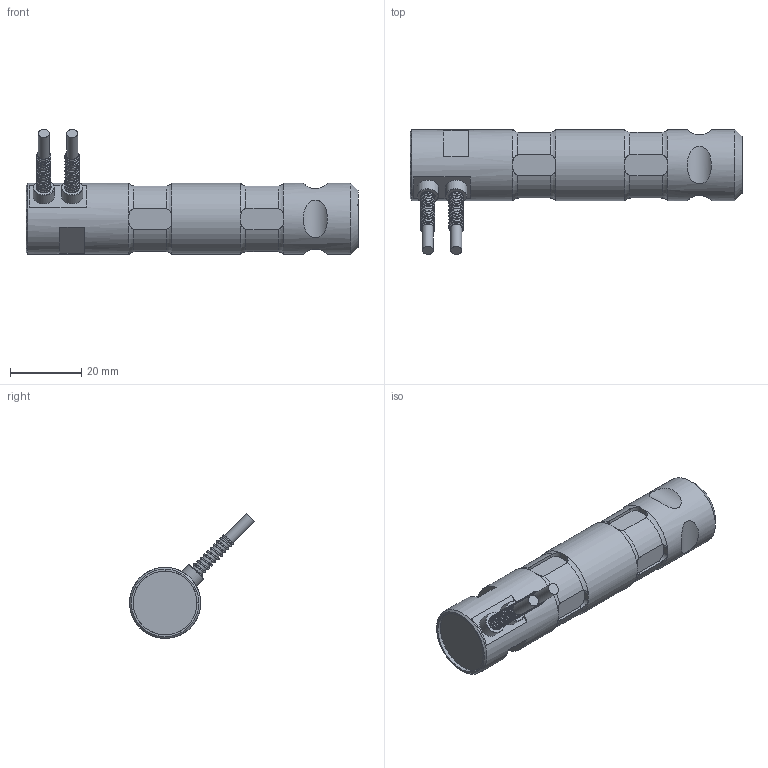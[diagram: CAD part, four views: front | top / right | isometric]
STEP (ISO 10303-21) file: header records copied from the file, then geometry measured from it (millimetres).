
FILE_DESCRIPTION(/* description */ ('Alibre Inc.'),/* implementation_level */ '2;1');
FILE_NAME(/* name */ 'export-7DBC76BD-AF22-4BE0-9548-09B49D6D1E82',/* time_stamp */ '2020-10-16T12:42:48+02:00',/* author */ (''),/* organization */ (''),/* preprocessor_version */ 'ST-DEVELOPER v17',/* originating_system */ 'Alibre',/* authorisation */ '');
FILE_SCHEMA (('CONFIG_CONTROL_DESIGN'));
Length unit declared in the file: centimetre
Products named in the file (6): ID_1
Bounding box: 93.5 x 35.15 x 35.15 mm (x, y, z)
Volume: 27836.8 mm3; surface area: 8389.2 mm2
Topology: 7 solids, 7 shells, 247 faces, 601 edges, 377 vertices
Faces by surface type: plane 114, cylinder 78, bspline 24, torus 20, cone 11
Full cylindrical faces by diameter (mm): 3.15 x2, 3.3 x2, 4.2 x2, 5 x2, 5.1 x2, 6 x2, 18 x1, 20 x3
Entity records: 18751 total; most frequent: CARTESIAN_POINT 13602, ORIENTED_EDGE 1028, DIRECTION 748, EDGE_CURVE 514, VERTEX_POINT 337, AXIS2_PLACEMENT_3D 299, VECTOR 262, LINE 262
